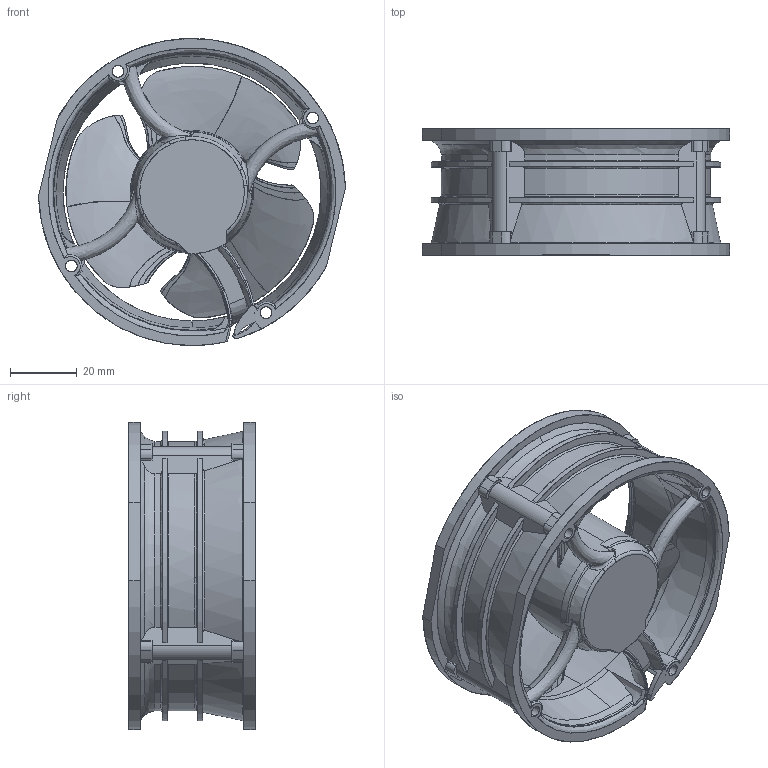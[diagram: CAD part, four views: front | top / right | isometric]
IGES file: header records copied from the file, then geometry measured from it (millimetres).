
Start section: SolidWorks IGES file using analytic representation for surfaces
Bounding box: 92.21 x 38 x 92.25 mm (x, y, z)
Surface area: 42138.1 mm2 (no closed solid volume)
Topology: 0 solids, 0 shells, 552 faces, 6526 edges, 6518 vertices
Faces by surface type: bspline 372, revolution 180
